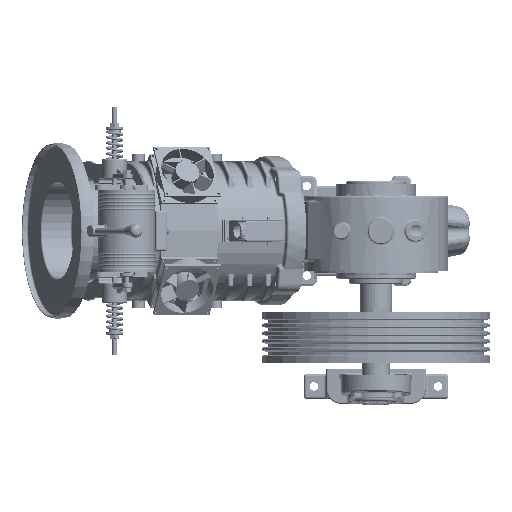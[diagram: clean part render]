
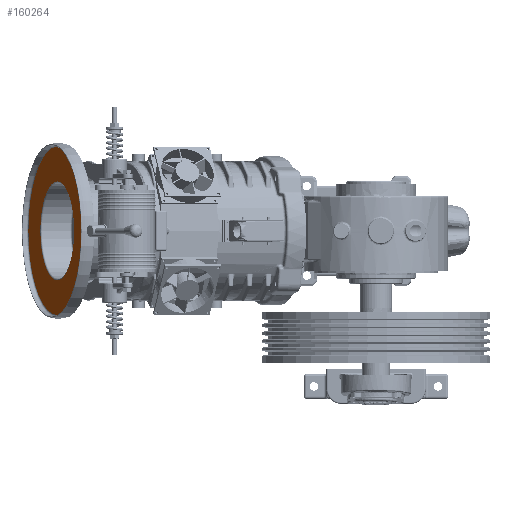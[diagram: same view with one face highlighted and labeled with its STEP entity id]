
A CAD part, left-side view. The second image highlights one B-rep face of the part: STEP entity #160264.
In plain terms, the highlighted planar face has unit normal (-0.342, 0.94, 0).
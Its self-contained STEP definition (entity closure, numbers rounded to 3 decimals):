
#2817 = ORIENTED_EDGE ( 'NONE', *, *, #170927, .T. ) ;
#7934 = CARTESIAN_POINT ( 'NONE',  ( -263.483, 479.943, 0. ) ) ;
#12068 = DIRECTION ( 'NONE',  ( 0., 0., -1. ) ) ;
#12659 = EDGE_LOOP ( 'NONE', ( #257572, #2817 ) ) ;
#15070 = VERTEX_POINT ( 'NONE', #107423 ) ;
#34908 = CARTESIAN_POINT ( 'NONE',  ( -263.483, 479.943, 0. ) ) ;
#42314 = DIRECTION ( 'NONE',  ( 0., 0., -1. ) ) ;
#47319 = CIRCLE ( 'NONE', #142010, 169.5 ) ;
#49726 = EDGE_CURVE ( 'NONE', #15070, #188752, #238922, .T. ) ;
#53930 = AXIS2_PLACEMENT_3D ( 'NONE', #34908, #270838, #251077 ) ;
#61738 = DIRECTION ( 'NONE',  ( 0., 0., -1. ) ) ;
#62146 = CARTESIAN_POINT ( 'NONE',  ( -263.483, 479.943, 0. ) ) ;
#65223 = DIRECTION ( 'NONE',  ( 0., 0., -1. ) ) ;
#73114 = CIRCLE ( 'NONE', #136423, 169.5 ) ;
#75786 = EDGE_LOOP ( 'NONE', ( #236337, #173805 ) ) ;
#86339 = FACE_BOUND ( 'NONE', #75786, .T. ) ;
#107423 = CARTESIAN_POINT ( 'NONE',  ( -263.483, 479.943, 99.5 ) ) ;
#110764 = CARTESIAN_POINT ( 'NONE',  ( -263.483, 479.943, -99.5 ) ) ;
#110808 = EDGE_CURVE ( 'NONE', #177536, #147883, #73114, .T. ) ;
#127083 = DIRECTION ( 'NONE',  ( -0.342, 0.94, 0. ) ) ;
#136423 = AXIS2_PLACEMENT_3D ( 'NONE', #62146, #127083, #42314 ) ;
#138568 = AXIS2_PLACEMENT_3D ( 'NONE', #222948, #186075, #61738 ) ;
#142010 = AXIS2_PLACEMENT_3D ( 'NONE', #7934, #180182, #12068 ) ;
#147883 = VERTEX_POINT ( 'NONE', #155213 ) ;
#155213 = CARTESIAN_POINT ( 'NONE',  ( -263.483, 479.943, 169.5 ) ) ;
#160264 = ADVANCED_FACE ( 'NONE', ( #86339, #220516 ), #172517, .F. ) ;
#161152 = CIRCLE ( 'NONE', #138568, 99.5 ) ;
#170927 = EDGE_CURVE ( 'NONE', #147883, #177536, #47319, .T. ) ;
#172517 = PLANE ( 'NONE',  #185096 ) ;
#173805 = ORIENTED_EDGE ( 'NONE', *, *, #49726, .T. ) ;
#177536 = VERTEX_POINT ( 'NONE', #252657 ) ;
#180182 = DIRECTION ( 'NONE',  ( -0.342, 0.94, 0. ) ) ;
#185096 = AXIS2_PLACEMENT_3D ( 'NONE', #258744, #246930, #65223 ) ;
#186075 = DIRECTION ( 'NONE',  ( 0.342, -0.94, 0. ) ) ;
#188752 = VERTEX_POINT ( 'NONE', #110764 ) ;
#220516 = FACE_OUTER_BOUND ( 'NONE', #12659, .T. ) ;
#222948 = CARTESIAN_POINT ( 'NONE',  ( -263.483, 479.943, 0. ) ) ;
#236337 = ORIENTED_EDGE ( 'NONE', *, *, #240349, .T. ) ;
#238922 = CIRCLE ( 'NONE', #53930, 99.5 ) ;
#240349 = EDGE_CURVE ( 'NONE', #188752, #15070, #161152, .T. ) ;
#246930 = DIRECTION ( 'NONE',  ( 0.342, -0.94, 0. ) ) ;
#251077 = DIRECTION ( 'NONE',  ( 0., 0., -1. ) ) ;
#252657 = CARTESIAN_POINT ( 'NONE',  ( -263.483, 479.943, -169.5 ) ) ;
#257572 = ORIENTED_EDGE ( 'NONE', *, *, #110808, .T. ) ;
#258744 = CARTESIAN_POINT ( 'NONE',  ( -354.163, 446.938, 0. ) ) ;
#270838 = DIRECTION ( 'NONE',  ( 0.342, -0.94, 0. ) ) ;
